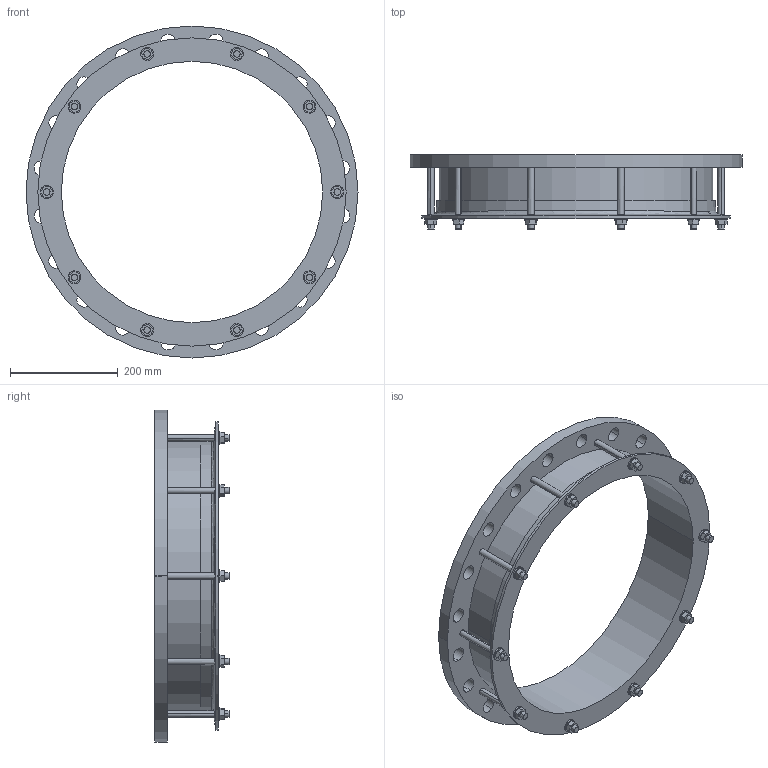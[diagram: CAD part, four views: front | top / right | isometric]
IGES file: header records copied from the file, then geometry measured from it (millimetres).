
Start section:  PTC IGES file: 480x450pn10.igs
Global section: file name: 480x450pn10.igs; native system: Creo Parametric by PTC Inc.; preprocessor: 2016130; author: mfairey; organization: Unknown; date: 20190116.112120; units: millimetre
Bounding box: 615 x 137.45 x 615 mm (x, y, z)
Surface area: 758988.2 mm2 (no closed solid volume)
Topology: 0 solids, 0 shells, 208 faces, 1096 edges, 1096 vertices
Faces by surface type: revolution 114, bspline 94
